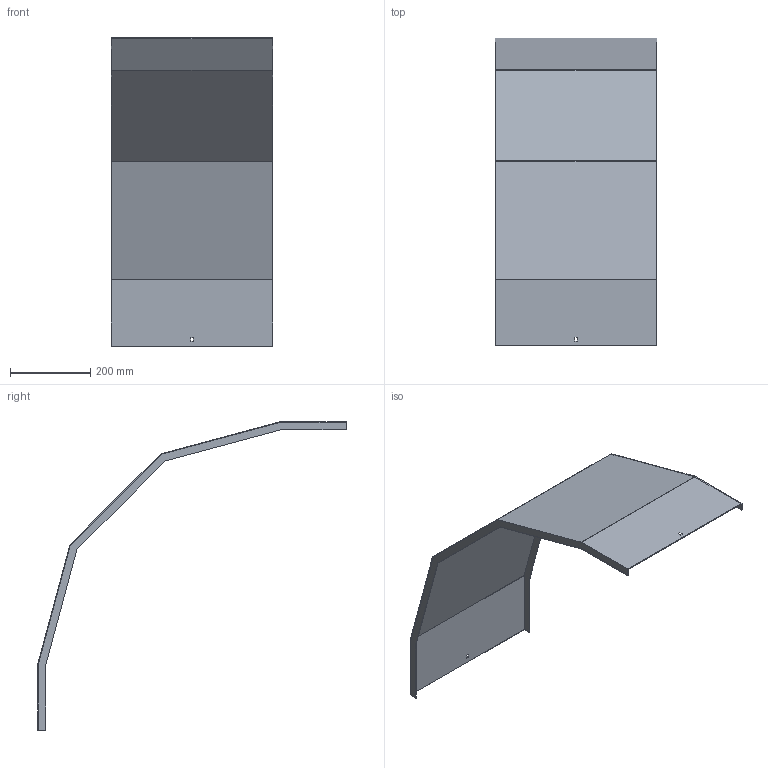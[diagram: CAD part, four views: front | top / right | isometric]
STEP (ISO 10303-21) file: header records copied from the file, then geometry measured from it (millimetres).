
FILE_DESCRIPTION (( 'STEP AP214' ), '1' );
FILE_NAME ('33N5D400.step', '2025-02-21T10:43:21', ( '' ), ( '' ), 'SwSTEP 2.0', 'SolidWorks 2023', '' );
FILE_SCHEMA (( 'AUTOMOTIVE_DESIGN' ));
Length unit declared in the file: millimetre
Products named in the file (1): 33N5D400
Bounding box: 403 x 769.82 x 769.82 mm (x, y, z)
Volume: 835005.1 mm3; surface area: 1118464.8 mm2
Topology: 1 solids, 1 shells, 34 faces, 96 edges, 64 vertices
Faces by surface type: plane 34
Entity records: 1111 total; most frequent: CARTESIAN_POINT 195, ORIENTED_EDGE 192, DIRECTION 166, EDGE_CURVE 96, VECTOR 96, LINE 96, VERTEX_POINT 64, EDGE_LOOP 38
